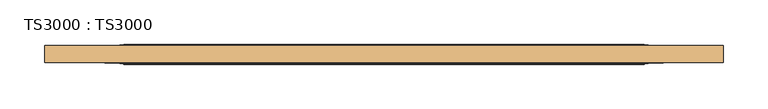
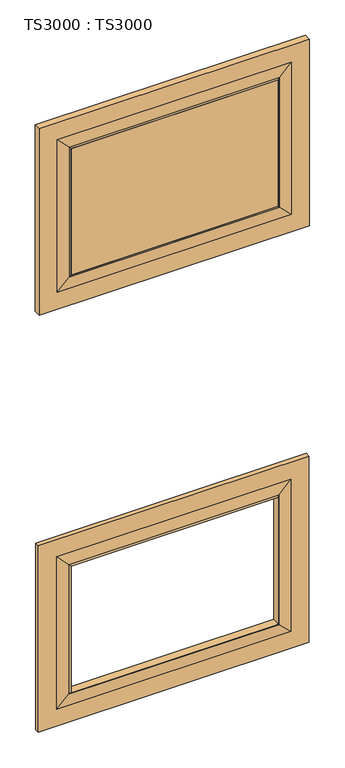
"""IFC4 building model written with IfcOpenShell, lengths in millimetres: door geometry, TS3000 : TS3000."""

import ifcopenshell
import ifcopenshell.guid

model = None  # the IFC model being written
_history = None  # IfcOwnerHistory: only IFC2X3 demands one
_inside = {}  # id of a spatial element -> (the spatial element, [elements in it])
_under = {}  # id of a project, library or spatial element -> (it, [spatial elements below it])
_declared = {}  # id of a project -> (the project, [libraries it declares])
_typed = {}  # id of a type object -> (the type object, [elements of that type])
_made_of = {}  # id of a material, layer set ... -> (it, [elements and type objects made of it])


def new_model(schema):
    """Start an empty IFC model of exactly this schema.

    Asked for "IFC4X3", IfcOpenShell would pick the latest addendum, in which some entities
    have other attributes; the version numbers below select the first issue.
    IFC2X3 requires an IfcOwnerHistory on every rooted entity: one is made here for all.
    """
    global model, _history
    if schema == "IFC4X3":
        model = ifcopenshell.file(schema_version=(4, 3, 0, 0))
    else:
        model = ifcopenshell.file(schema=schema)
    _inside.clear()
    _under.clear()
    _declared.clear()
    _typed.clear()
    _made_of.clear()
    _history = None
    if model.schema == "IFC2X3":
        org = make("IfcOrganization", Name="unknown")
        user = make(
            "IfcPersonAndOrganization",
            ThePerson=make("IfcPerson", FamilyName="unknown"),
            TheOrganization=org,
        )
        app = make(
            "IfcApplication",
            ApplicationDeveloper=org,
            Version="unknown",
            ApplicationFullName="unknown",
            ApplicationIdentifier="unknown",
        )
        _history = make(
            "IfcOwnerHistory",
            OwningUser=user,
            OwningApplication=app,
            ChangeAction="ADDED",
            CreationDate=0,
        )
    return model


def make(cls, **values):
    """One entity of the class cls with the attributes given. An attribute that is None is left unset."""
    return model.create_entity(
        cls, **{name: value for name, value in values.items() if value is not None}
    )


def rooted(cls, **values):
    """An entity with a GlobalId (a new one), such as an element, a storey or a relation."""
    return make(cls, GlobalId=ifcopenshell.guid.new(), OwnerHistory=_history, **values)


def si_unit(unit_type, name, prefix=None):
    """IfcSIUnit, for example si_unit("LENGTHUNIT", "METRE", prefix="MILLI")."""
    return make("IfcSIUnit", UnitType=unit_type, Prefix=prefix, Name=name)


def assignment(units):
    """IfcUnitAssignment: the units of a project."""
    return None if units is None else make("IfcUnitAssignment", Units=units)


def point(xyz):
    """IfcCartesianPoint."""
    return None if xyz is None else make("IfcCartesianPoint", Coordinates=xyz)


def direction(xyz):
    """IfcDirection."""
    return None if xyz is None else make("IfcDirection", DirectionRatios=xyz)


def frame(location, z_axis=None, x_axis=None):
    """IfcAxis2Placement3D, a coordinate frame: its origin and axes. An axis left out is left unset."""
    return make(
        "IfcAxis2Placement3D",
        Location=point(location),
        Axis=direction(z_axis),
        RefDirection=direction(x_axis),
    )


def origin():
    """The frame at (0, 0, 0) with its axes left unset."""
    return frame((0.0, 0.0, 0.0))


def place(relative_to, where):
    """IfcLocalPlacement: puts the frame where relative to a parent placement (None: the world)."""
    return make(
        "IfcLocalPlacement", PlacementRelTo=relative_to, RelativePlacement=where
    )


def context(
    kind, dimensions, precision=None, world=None, true_north=None, identifier=None
):
    """IfcGeometricRepresentationContext, for example the 3D "Model" context."""
    return make(
        "IfcGeometricRepresentationContext",
        ContextIdentifier=identifier,
        ContextType=kind,
        CoordinateSpaceDimension=dimensions,
        Precision=precision,
        WorldCoordinateSystem=world,
        TrueNorth=true_north,
    )


def project(units=None, contexts=None):
    """IfcProject with its units and contexts."""
    return rooted(
        "IfcProject",
        Name="project",
        RepresentationContexts=contexts,
        UnitsInContext=assignment(units),
    )


def spatial(cls, under=None, at=None, **own):
    """A site, building, storey or space (cls), placed at a placement, below another one or the project."""
    s = rooted(cls, ObjectPlacement=at, **own)
    if under is not None:
        _under.setdefault(under.id(), (under, []))[1].append(s)
    return s


def polyline(points):
    """IfcPolyline through the points."""
    return make("IfcPolyline", Points=[point(p) for p in points])


def ellipse_curve(where, semi_axis1, semi_axis2):
    """IfcEllipse in the frame where."""
    return make(
        "IfcEllipse", Position=where, SemiAxis1=semi_axis1, SemiAxis2=semi_axis2
    )


def outline(outer, holes=None, kind="AREA"):
    """IfcArbitraryClosedProfileDef: a profile drawn as a closed curve; with holes, ...WithVoids."""
    if holes is None:
        return make("IfcArbitraryClosedProfileDef", ProfileType=kind, OuterCurve=outer)
    return make(
        "IfcArbitraryProfileDefWithVoids",
        ProfileType=kind,
        OuterCurve=outer,
        InnerCurves=holes,
    )


def extrude(swept, where, along, depth):
    """IfcExtrudedAreaSolid: the profile swept, set in the frame where, extruded along a direction by depth."""
    return make(
        "IfcExtrudedAreaSolid",
        SweptArea=swept,
        Position=where,
        ExtrudedDirection=direction(along),
        Depth=depth,
    )


def shape(context_of_items, identifier, shape_type, items):
    """IfcShapeRepresentation: the items that make up one representation, for example the "Body"."""
    return make(
        "IfcShapeRepresentation",
        ContextOfItems=context_of_items,
        RepresentationIdentifier=identifier,
        RepresentationType=shape_type,
        Items=items,
    )


def source(mapping_origin, context_of_items, identifier, shape_type, items):
    """IfcRepresentationMap: a shape defined once, which mapped items show again and again."""
    return make(
        "IfcRepresentationMap",
        MappingOrigin=mapping_origin,
        MappedRepresentation=shape(context_of_items, identifier, shape_type, items),
    )


def transform(
    local_origin,
    x_axis=None,
    y_axis=None,
    z_axis=None,
    scale=None,
    scale2=None,
    scale3=None,
    uniform=True,
):
    """IfcCartesianTransformationOperator3D, or its non-uniform kind. x_axis, y_axis, z_axis: its Axis1, 2, 3."""
    if uniform:
        return make(
            "IfcCartesianTransformationOperator3D",
            Axis1=direction(x_axis),
            Axis2=direction(y_axis),
            LocalOrigin=point(local_origin),
            Scale=scale,
            Axis3=direction(z_axis),
        )
    return make(
        "IfcCartesianTransformationOperator3DnonUniform",
        Axis1=direction(x_axis),
        Axis2=direction(y_axis),
        LocalOrigin=point(local_origin),
        Scale=scale,
        Axis3=direction(z_axis),
        Scale2=scale2,
        Scale3=scale3,
    )


def mapped(mapping_source, mapping_target):
    """IfcMappedItem: shows the shape of a source again, moved by a transform."""
    return make(
        "IfcMappedItem", MappingSource=mapping_source, MappingTarget=mapping_target
    )


def made_of(thing, what):
    """Note that an element or type object is made of a material, layer set ...; save() writes the relation."""
    if what is not None:
        _made_of.setdefault(what.id(), (what, []))[1].append(thing)
    return thing


def element(
    cls,
    number,
    at=None,
    inside=None,
    cuts=None,
    type_object=None,
    material=None,
    context=None,
    identifier="Body",
    shape_type=None,
    held_by="IfcProductDefinitionShape",
    body=None,
    shapes=None,
    **own,
):
    """One element of the class cls, such as IfcWall. Its Tag is "e" and its number.

    at: its placement. inside: the storey or other place that contains it. cuts: it is an
    opening in that element (IfcRelVoidsElement). A single representation is given by context,
    identifier, shape_type and body (its items); several are given by shapes. held_by: the class
    of the entity that holds the representations. save() writes the other relations.
    """
    e = rooted(cls, Tag="e%d" % number, ObjectPlacement=at, **own)
    if body is not None:
        shapes = [shape(context, identifier, shape_type, body)]
    if shapes is not None:
        e.Representation = make(held_by, Representations=shapes)
    if inside is not None:
        _inside.setdefault(inside.id(), (inside, []))[1].append(e)
    if cuts is not None:
        rooted(
            "IfcRelVoidsElement", RelatingBuildingElement=cuts, RelatedOpeningElement=e
        )
    if type_object is not None:
        _typed.setdefault(type_object.id(), (type_object, []))[1].append(e)
    return made_of(e, material)


def aggregate(whole, parts):
    """IfcRelAggregates: a whole, such as a stair, and the parts it consists of."""
    return rooted("IfcRelAggregates", RelatingObject=whole, RelatedObjects=parts)


def save(model, path):
    """Write the relations noted so far, then the file.

    IfcRelAggregates (storeys below a building ...), IfcRelContainedInSpatialStructure (elements
    in a storey), IfcRelDefinesByType, IfcRelAssociatesMaterial and IfcRelDeclares: one each for
    every whole, place, type object, material and project.
    """
    for whole, parts in _under.values():
        aggregate(whole, parts)
    for where, things in _inside.values():
        rooted(
            "IfcRelContainedInSpatialStructure",
            RelatedElements=things,
            RelatingStructure=where,
        )
    for kind, things in _typed.values():
        rooted("IfcRelDefinesByType", RelatedObjects=things, RelatingType=kind)
    for what, things in _made_of.values():
        rooted("IfcRelAssociatesMaterial", RelatedObjects=things, RelatingMaterial=what)
    for by, libraries in _declared.values():
        rooted("IfcRelDeclares", RelatingContext=by, RelatedDefinitions=libraries)
    model.write(path)


def plane_surface(at):
    """IfcPlane: the flat surface through the origin of the frame at, square to its z axis."""
    return make("IfcPlane", Position=at)


def revolved_surface(curve, axis_point, axis_direction):
    """IfcSurfaceOfRevolution: the curve turned about the line through axis_point along axis_direction."""
    return make(
        "IfcSurfaceOfRevolution",
        SweptCurve=make("IfcArbitraryOpenProfileDef", ProfileType="CURVE", Curve=curve),
        AxisPosition=make("IfcAxis1Placement", Location=point(axis_point), Axis=direction(axis_direction)),
    )


def advanced_brep(points, edges, surfaces, faces):
    """IfcAdvancedBrep: a solid bounded by faces that lie on surfaces and meet in shared edges.

    An edge is (start, end): straight between two places in points (the first is 0);
    or (start, end, curve); or (start, end, curve, False) where it runs against its curve.
    A face is (place in surfaces, loops), or (place, loops, False) where it looks against
    its surface's normal. A loop lists edges by number (the first is 1), with a minus sign
    where the edge is run from its end to its start. The first loop is the outer one.
    """
    corners = [point(p) for p in points]
    vertices = [make("IfcVertexPoint", VertexGeometry=c) for c in corners]
    made = []
    for start, end, *more in edges:
        made.append(
            make(
                "IfcEdgeCurve",
                EdgeStart=vertices[start],
                EdgeEnd=vertices[end],
                EdgeGeometry=more[0] if more else make("IfcPolyline", Points=[corners[start], corners[end]]),
                SameSense=more[1] if len(more) > 1 else True,
            )
        )
    hull = []
    for where, loops, *sense in faces:
        bounds = []
        for j, loop in enumerate(loops):
            ring = [make("IfcOrientedEdge", EdgeElement=made[abs(k) - 1], Orientation=k > 0) for k in loop]
            bounds.append(
                make(
                    "IfcFaceOuterBound" if j == 0 else "IfcFaceBound",
                    Bound=make("IfcEdgeLoop", EdgeList=ring),
                    Orientation=True,
                )
            )
        hull.append(make("IfcAdvancedFace", Bounds=bounds, FaceSurface=surfaces[where], SameSense=sense[0] if sense else True))
    return make("IfcAdvancedBrep", Outer=make("IfcClosedShell", CfsFaces=hull))


def ts3000_ts3000_fbc00aaa(model_context):
    return source(origin(), model_context, "Body", "SolidModel", [
        advanced_brep(
        [(889.0, -15.875, 764.1166667), (889.0, -28.575, 764.1166667), (889.0, -28.575, 209.55), (889.0, -15.875, 209.55), (800.1, -33.3375, 675.2166667), (800.1, -11.1125, 675.2166667), (800.1, -11.1125, 298.45), (800.1, -33.3375, 298.45), (127.0, -28.575, 209.55), (127.0, -15.875, 209.55), (215.9, -11.1125, 298.45), (215.9, -33.3375, 298.45), (127.0, -28.575, 764.1166667), (127.0, -15.875, 764.1166667), (215.9, -11.1125, 675.2166667), (215.9, -33.3375, 675.2166667), (838.2, -28.575, 260.35), (177.8, -28.575, 260.35), (177.8, -28.575, 713.3166667), (838.2, -28.575, 713.3166667), (838.2, -15.875, 713.3166667), (177.8, -15.875, 713.3166667), (177.8, -15.875, 260.35), (838.2, -15.875, 260.35), (804.8625, -30.95625, 679.9791667), (804.8625, -30.95625, 293.6875), (211.1375, -30.95625, 293.6875), (211.1375, -30.95625, 679.9791667), (804.8625, -13.49375, 679.9791667), (804.8625, -13.49375, 293.6875), (211.1375, -13.49375, 293.6875), (211.1375, -13.49375, 679.9791667)],
        [
            (0, 1),
            (1, 2),
            (2, 3),
            (3, 0),
            (4, 5),
            (5, 6),
            (6, 7),
            (7, 4),
            (2, 8),
            (8, 9),
            (9, 3),
            (6, 10),
            (10, 11),
            (11, 7),
            (8, 12),
            (12, 13),
            (13, 9),
            (10, 14),
            (14, 15),
            (15, 11),
            (1, 12),
            (16, 17),
            (17, 18),
            (18, 19),
            (19, 16),
            (0, 13),
            (20, 21),
            (21, 22),
            (22, 23),
            (23, 20),
            (14, 5),
            (4, 15),
            (19, 24),
            (24, 25),
            (25, 16),
            (25, 26),
            (26, 17),
            (26, 27),
            (27, 18),
            (27, 24),
            (28, 20),
            (23, 29),
            (29, 28),
            (5, 28, ellipse_curve(frame((805.3585938, -6.5484375, 680.4752604), z_axis=(-0.7071067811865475, 0.0, 0.7071067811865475), x_axis=(-0.7071067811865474, 0.0, -0.7071067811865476)), 9.8471798, 6.9630076)),
            (29, 6, ellipse_curve(frame((805.3585938, -6.5484375, 293.1914062), z_axis=(-0.7071067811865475, 0.0, -0.7071067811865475), x_axis=(0.7071067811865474, 0.0, -0.7071067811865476)), 9.8471798, 6.9630076)),
            (24, 4, ellipse_curve(frame((805.3585938, -37.9015625, 680.4752604), z_axis=(-0.7071067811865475, 0.0, 0.7071067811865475), x_axis=(-0.7071067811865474, 0.0, -0.7071067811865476)), 9.8471798, 6.9630076)),
            (7, 25, ellipse_curve(frame((805.3585938, -37.9015625, 293.1914062), z_axis=(-0.7071067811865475, 0.0, -0.7071067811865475), x_axis=(0.7071067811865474, 0.0, -0.7071067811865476)), 9.8471798, 6.9630076)),
            (22, 30),
            (30, 29),
            (30, 10, ellipse_curve(frame((210.6414063, -6.5484375, 293.1914062), z_axis=(-0.7071067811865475, 0.0, 0.7071067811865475), x_axis=(-0.7071067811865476, 0.0, -0.7071067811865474)), 9.8471798, 6.9630076)),
            (11, 26, ellipse_curve(frame((210.6414063, -37.9015625, 293.1914062), z_axis=(-0.7071067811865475, 0.0, 0.7071067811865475), x_axis=(-0.7071067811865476, 0.0, -0.7071067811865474)), 9.8471798, 6.9630076)),
            (21, 31),
            (31, 30),
            (31, 14, ellipse_curve(frame((210.6414063, -6.5484375, 680.4752604), z_axis=(0.7071067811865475, 0.0, 0.7071067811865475), x_axis=(-0.7071067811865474, 0.0, 0.7071067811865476)), 9.8471798, 6.9630076)),
            (15, 27, ellipse_curve(frame((210.6414063, -37.9015625, 680.4752604), z_axis=(0.7071067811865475, 0.0, 0.7071067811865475), x_axis=(-0.7071067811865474, 0.0, 0.7071067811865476)), 9.8471798, 6.9630076)),
            (28, 31),
        ],
        [
            plane_surface(frame((889.0, -28.575, 764.1166667), z_axis=(1.0, 0.0, 0.0), x_axis=(0.0, 0.0, -1.0))),
            plane_surface(frame((800.1, -11.1125, 675.2166667), z_axis=(-1.0, 0.0, 0.0), x_axis=(0.0, 0.0, -1.0))),
            plane_surface(frame((889.0, -28.575, 209.55), z_axis=(0.0, 0.0, -1.0), x_axis=(-1.0, 0.0, 0.0))),
            plane_surface(frame((800.1, -11.1125, 298.45), z_axis=(0.0, 0.0, 1.0), x_axis=(-1.0, 0.0, 0.0))),
            plane_surface(frame((127.0, -28.575, 209.55), z_axis=(-1.0, 0.0, 0.0), x_axis=(0.0, 0.0, 1.0))),
            plane_surface(frame((215.9, -11.1125, 298.45), z_axis=(1.0, 0.0, 0.0), x_axis=(0.0, 0.0, 1.0))),
            plane_surface(frame((177.8, -28.575, 713.3166667), z_axis=(0.0, -1.0, 0.0), x_axis=(1.0, 0.0, 0.0))),
            plane_surface(frame((127.0, -28.575, 764.1166667), z_axis=(0.0, 0.0, 1.0), x_axis=(1.0, 0.0, 0.0))),
            plane_surface(frame((127.0, -15.875, 764.1166667), z_axis=(0.0, 1.0, 0.0), x_axis=(1.0, 0.0, 0.0))),
            plane_surface(frame((215.9, -11.1125, 675.2166667), z_axis=(0.0, 0.0, -1.0), x_axis=(1.0, 0.0, 0.0))),
            plane_surface(frame((804.8625, -30.95625, 679.9791667), z_axis=(0.07124704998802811, -0.9974586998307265, 0.0), x_axis=(0.0, 0.0, -1.0))),
            plane_surface(frame((804.8625, -30.95625, 293.6875), z_axis=(0.0, -0.9974586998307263, -0.07124704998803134), x_axis=(-1.0, 0.0, 0.0))),
            plane_surface(frame((211.1375, -30.95625, 293.6875), z_axis=(-0.07124704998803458, -0.9974586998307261, 0.0), x_axis=(0.0, 0.0, 1.0))),
            plane_surface(frame((211.1375, -30.95625, 679.9791667), z_axis=(0.0, -0.9974586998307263, 0.07124704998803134), x_axis=(1.0, 0.0, 0.0))),
            plane_surface(frame((838.2, -15.875, 713.3166667), z_axis=(0.07124704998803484, 0.9974586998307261, 0.0), x_axis=(0.0, 0.0, -1.0))),
            revolved_surface(polyline([(798.3955862, -6.5484375, 286.2283985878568), (798.3955862, -6.5484375, 687.4382680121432)]), (805.3585938, -6.5484375, 675.2166667), (0.0, 0.0, -1.0)),
            revolved_surface(polyline([(798.3955862, -37.9015625, 286.2283985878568), (798.3955862, -37.9015625, 687.4382680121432)]), (805.3585938, -37.9015625, 675.2166667), (0.0, 0.0, -1.0)),
            plane_surface(frame((838.2, -15.875, 260.35), z_axis=(0.0, 0.9974586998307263, -0.07124704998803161), x_axis=(-1.0, 0.0, 0.0))),
            revolved_surface(polyline([(203.67839868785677, -6.5484375, 300.15441380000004), (812.3216014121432, -6.5484375, 300.15441380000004)]), (800.1, -6.5484375, 293.1914062), (-1.0, 0.0, 0.0)),
            revolved_surface(polyline([(203.67839868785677, -37.9015625, 300.15441380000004), (812.3216014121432, -37.9015625, 300.15441380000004)]), (800.1, -37.9015625, 293.1914062), (-1.0, 0.0, 0.0)),
            plane_surface(frame((177.8, -15.875, 260.35), z_axis=(-0.07124704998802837, 0.9974586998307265, 0.0), x_axis=(0.0, 0.0, 1.0))),
            revolved_surface(polyline([(217.6044139, -6.5484375, 687.4382680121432), (217.6044139, -6.5484375, 286.2283985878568)]), (210.6414063, -6.5484375, 298.45), (0.0, 0.0, 1.0)),
            revolved_surface(polyline([(217.6044139, -37.9015625, 687.4382680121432), (217.6044139, -37.9015625, 286.2283985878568)]), (210.6414063, -37.9015625, 298.45), (0.0, 0.0, 1.0)),
            plane_surface(frame((177.8, -15.875, 713.3166667), z_axis=(0.0, 0.9974586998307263, 0.07124704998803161), x_axis=(1.0, 0.0, 0.0))),
            revolved_surface(polyline([(812.3216014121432, -6.5484375, 673.5122528), (203.6783986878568, -6.5484375, 673.5122528)]), (215.9, -6.5484375, 680.4752604), (1.0, 0.0, 0.0)),
            revolved_surface(polyline([(812.3216014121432, -37.9015625, 673.5122528), (203.6783986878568, -37.9015625, 673.5122528)]), (215.9, -37.9015625, 680.4752604), (1.0, 0.0, 0.0)),
        ],
        [
            (0, [[1, 2, 3, 4]]),
            (1, [[5, 6, 7, 8]]),
            (2, [[-3, 9, 10, 11]]),
            (3, [[-7, 12, 13, 14]]),
            (4, [[-10, 15, 16, 17]]),
            (5, [[-13, 18, 19, 20]]),
            (6, [[21, -15, -9, -2], [22, 23, 24, 25]]),
            (7, [[-16, -21, -1, 26]]),
            (8, [[-11, -17, -26, -4], [27, 28, 29, 30]]),
            (9, [[-19, 31, -5, 32]]),
            (10, [[33, 34, 35, -25]]),
            (11, [[-35, 36, 37, -22]]),
            (12, [[-37, 38, 39, -23]]),
            (13, [[-39, 40, -33, -24]]),
            (14, [[41, -30, 42, 43]]),
            (15, [[44, -43, 45, -6]]),
            (16, [[46, -8, 47, -34]]),
            (17, [[-42, -29, 48, 49]]),
            (18, [[-45, -49, 50, -12]]),
            (19, [[-47, -14, 51, -36]]),
            (20, [[-48, -28, 52, 53]]),
            (21, [[-50, -53, 54, -18]]),
            (22, [[-51, -20, 55, -38]]),
            (23, [[-52, -27, -41, 56]]),
            (24, [[-54, -56, -44, -31]]),
            (25, [[-55, -32, -46, -40]]),
        ],
    ),
        advanced_brep(
        [(889.0, -12.7, 2006.6), (889.0, -31.75, 2006.6), (889.0, -31.75, 1452.0333333), (889.0, -12.7, 1452.0333333), (800.1, -33.3375, 1917.7), (800.1, -11.1125, 1917.7), (800.1, -11.1125, 1540.9333333), (800.1, -33.3375, 1540.9333333), (127.0, -31.75, 1452.0333333), (127.0, -12.7, 1452.0333333), (215.9, -11.1125, 1540.9333333), (215.9, -33.3375, 1540.9333333), (127.0, -31.75, 2006.6), (127.0, -12.7, 2006.6), (215.9, -11.1125, 1917.7), (215.9, -33.3375, 1917.7), (838.2, -31.75, 1502.8333333), (177.8, -31.75, 1502.8333333), (177.8, -31.75, 1955.8), (838.2, -31.75, 1955.8), (838.2, -12.7, 1955.8), (177.8, -12.7, 1955.8), (177.8, -12.7, 1502.8333333), (838.2, -12.7, 1502.8333333), (804.8625, -32.54375, 1922.4625), (804.8625, -32.54375, 1536.1708333), (211.1375, -32.54375, 1536.1708333), (211.1375, -32.54375, 1922.4625), (804.8625, -11.90625, 1922.4625), (804.8625, -11.90625, 1536.1708333), (211.1375, -11.90625, 1536.1708333), (211.1375, -11.90625, 1922.4625)],
        [
            (0, 1),
            (1, 2),
            (2, 3),
            (3, 0),
            (4, 5),
            (5, 6),
            (6, 7),
            (7, 4),
            (2, 8),
            (8, 9),
            (9, 3),
            (6, 10),
            (10, 11),
            (11, 7),
            (8, 12),
            (12, 13),
            (13, 9),
            (10, 14),
            (14, 15),
            (15, 11),
            (1, 12),
            (16, 17),
            (17, 18),
            (18, 19),
            (19, 16),
            (0, 13),
            (20, 21),
            (21, 22),
            (22, 23),
            (23, 20),
            (14, 5),
            (4, 15),
            (19, 24),
            (24, 25),
            (25, 16),
            (25, 26),
            (26, 17),
            (26, 27),
            (27, 18),
            (27, 24),
            (28, 20),
            (23, 29),
            (29, 28),
            (5, 28, ellipse_curve(frame((805.3585938, 5.7546875, 1922.9585938), z_axis=(-0.7071067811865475, 0.0, 0.7071067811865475), x_axis=(-0.7071067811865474, 0.0, -0.7071067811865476)), 24.9861891, 17.6679037)),
            (29, 6, ellipse_curve(frame((805.3585938, 5.7546875, 1535.6747396), z_axis=(-0.7071067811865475, 0.0, -0.7071067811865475), x_axis=(0.7071067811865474, 0.0, -0.7071067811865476)), 24.9861891, 17.6679037)),
            (24, 4, ellipse_curve(frame((805.3585938, -50.2046875, 1922.9585938), z_axis=(-0.7071067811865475, 0.0, 0.7071067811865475), x_axis=(-0.7071067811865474, 0.0, -0.7071067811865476)), 24.9861891, 17.6679037)),
            (7, 25, ellipse_curve(frame((805.3585938, -50.2046875, 1535.6747396), z_axis=(-0.7071067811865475, 0.0, -0.7071067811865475), x_axis=(0.7071067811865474, 0.0, -0.7071067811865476)), 24.9861891, 17.6679037)),
            (22, 30),
            (30, 29),
            (30, 10, ellipse_curve(frame((210.6414063, 5.7546875, 1535.6747396), z_axis=(-0.7071067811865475, 0.0, 0.7071067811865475), x_axis=(-0.7071067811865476, 0.0, -0.7071067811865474)), 24.9861891, 17.6679037)),
            (11, 26, ellipse_curve(frame((210.6414063, -50.2046875, 1535.6747396), z_axis=(-0.7071067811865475, 0.0, 0.7071067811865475), x_axis=(-0.7071067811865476, 0.0, -0.7071067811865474)), 24.9861891, 17.6679037)),
            (21, 31),
            (31, 30),
            (31, 14, ellipse_curve(frame((210.6414063, 5.7546875, 1922.9585938), z_axis=(0.7071067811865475, 0.0, 0.7071067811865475), x_axis=(-0.7071067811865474, 0.0, 0.7071067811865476)), 24.9861891, 17.6679037)),
            (15, 27, ellipse_curve(frame((210.6414063, -50.2046875, 1922.9585938), z_axis=(0.7071067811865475, 0.0, 0.7071067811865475), x_axis=(-0.7071067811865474, 0.0, 0.7071067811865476)), 24.9861891, 17.6679037)),
            (28, 31),
        ],
        [
            plane_surface(frame((889.0, -31.75, 2006.6), z_axis=(1.0, 0.0, 0.0), x_axis=(0.0, 0.0, -1.0))),
            plane_surface(frame((800.1, -11.1125, 1917.7), z_axis=(-1.0, 0.0, 0.0), x_axis=(0.0, 0.0, -1.0))),
            plane_surface(frame((889.0, -31.75, 1452.0333333), z_axis=(0.0, 0.0, -1.0), x_axis=(-1.0, 0.0, 0.0))),
            plane_surface(frame((800.1, -11.1125, 1540.9333333), z_axis=(0.0, 0.0, 1.0), x_axis=(-1.0, 0.0, 0.0))),
            plane_surface(frame((127.0, -31.75, 1452.0333333), z_axis=(-1.0, 0.0, 0.0), x_axis=(0.0, 0.0, 1.0))),
            plane_surface(frame((215.9, -11.1125, 1540.9333333), z_axis=(1.0, 0.0, 0.0), x_axis=(0.0, 0.0, 1.0))),
            plane_surface(frame((177.8, -31.75, 1955.8), z_axis=(0.0, -1.0, 0.0), x_axis=(1.0, 0.0, 0.0))),
            plane_surface(frame((127.0, -31.75, 2006.6), z_axis=(0.0, 0.0, 1.0), x_axis=(1.0, 0.0, 0.0))),
            plane_surface(frame((127.0, -12.7, 2006.6), z_axis=(0.0, 1.0, 0.0), x_axis=(1.0, 0.0, 0.0))),
            plane_surface(frame((215.9, -11.1125, 1917.7), z_axis=(0.0, 0.0, -1.0), x_axis=(1.0, 0.0, 0.0))),
            plane_surface(frame((804.8625, -32.54375, 1922.4625), z_axis=(0.02380277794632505, -0.9997166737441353, 0.0), x_axis=(0.0, 0.0, -1.0))),
            plane_surface(frame((804.8625, -32.54375, 1536.1708333), z_axis=(0.0, -0.9997166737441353, -0.02380277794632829), x_axis=(-1.0, 0.0, 0.0))),
            plane_surface(frame((211.1375, -32.54375, 1536.1708333), z_axis=(-0.023802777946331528, -0.9997166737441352, 0.0), x_axis=(0.0, 0.0, 1.0))),
            plane_surface(frame((211.1375, -32.54375, 1922.4625), z_axis=(0.0, -0.9997166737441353, 0.02380277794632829), x_axis=(1.0, 0.0, 0.0))),
            plane_surface(frame((838.2, -12.7, 1955.8), z_axis=(0.023802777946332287, 0.9997166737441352, 0.0), x_axis=(0.0, 0.0, -1.0))),
            revolved_surface(polyline([(787.6906901, 5.7546875, 1518.0068358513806), (787.6906901, 5.7546875, 1940.6264975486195)]), (805.3585938, 5.7546875, 1917.7), (0.0, 0.0, -1.0)),
            revolved_surface(polyline([(787.6906901, -50.2046875, 1518.0068358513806), (787.6906901, -50.2046875, 1940.6264975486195)]), (805.3585938, -50.2046875, 1917.7), (0.0, 0.0, -1.0)),
            plane_surface(frame((838.2, -12.7, 1502.8333333), z_axis=(0.0, 0.9997166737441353, -0.02380277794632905), x_axis=(-1.0, 0.0, 0.0))),
            revolved_surface(polyline([(192.97350255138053, 5.7546875, 1553.3426433), (823.0264975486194, 5.7546875, 1553.3426433)]), (800.1, 5.7546875, 1535.6747396), (-1.0, 0.0, 0.0)),
            revolved_surface(polyline([(192.97350255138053, -50.2046875, 1553.3426433), (823.0264975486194, -50.2046875, 1553.3426433)]), (800.1, -50.2046875, 1535.6747396), (-1.0, 0.0, 0.0)),
            plane_surface(frame((177.8, -12.7, 1502.8333333), z_axis=(-0.023802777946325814, 0.9997166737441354, 0.0), x_axis=(0.0, 0.0, 1.0))),
            revolved_surface(polyline([(228.30931, 5.7546875, 1940.6264975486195), (228.30931, 5.7546875, 1518.0068358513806)]), (210.6414063, 5.7546875, 1540.9333333), (0.0, 0.0, 1.0)),
            revolved_surface(polyline([(228.30931, -50.2046875, 1940.6264975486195), (228.30931, -50.2046875, 1518.0068358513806)]), (210.6414063, -50.2046875, 1540.9333333), (0.0, 0.0, 1.0)),
            plane_surface(frame((177.8, -12.7, 1955.8), z_axis=(0.0, 0.9997166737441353, 0.02380277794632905), x_axis=(1.0, 0.0, 0.0))),
            revolved_surface(polyline([(823.0264975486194, 5.7546875, 1905.2906901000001), (192.9735025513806, 5.7546875, 1905.2906901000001)]), (215.9, 5.7546875, 1922.9585938), (1.0, 0.0, 0.0)),
            revolved_surface(polyline([(823.0264975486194, -50.2046875, 1905.2906901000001), (192.9735025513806, -50.2046875, 1905.2906901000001)]), (215.9, -50.2046875, 1922.9585938), (1.0, 0.0, 0.0)),
        ],
        [
            (0, [[1, 2, 3, 4]]),
            (1, [[5, 6, 7, 8]]),
            (2, [[-3, 9, 10, 11]]),
            (3, [[-7, 12, 13, 14]]),
            (4, [[-10, 15, 16, 17]]),
            (5, [[-13, 18, 19, 20]]),
            (6, [[21, -15, -9, -2], [22, 23, 24, 25]]),
            (7, [[-16, -21, -1, 26]]),
            (8, [[-11, -17, -26, -4], [27, 28, 29, 30]]),
            (9, [[-19, 31, -5, 32]]),
            (10, [[33, 34, 35, -25]]),
            (11, [[-35, 36, 37, -22]]),
            (12, [[-37, 38, 39, -23]]),
            (13, [[-39, 40, -33, -24]]),
            (14, [[41, -30, 42, 43]]),
            (15, [[44, -43, 45, -6]]),
            (16, [[46, -8, 47, -34]]),
            (17, [[-42, -29, 48, 49]]),
            (18, [[-45, -49, 50, -12]]),
            (19, [[-47, -14, 51, -36]]),
            (20, [[-48, -28, 52, 53]]),
            (21, [[-50, -53, 54, -18]]),
            (22, [[-51, -20, 55, -38]]),
            (23, [[-52, -27, -41, 56]]),
            (24, [[-54, -56, -44, -31]]),
            (25, [[-55, -32, -46, -40]]),
        ],
    ),
        extrude(outline(polyline([(215.9, -11.1125), (800.1, -11.1125), (800.1, -33.3375), (215.9, -33.3375), (215.9, -11.1125)])), frame((0.0, 0.0, 1540.9333333), z_axis=(0.0, 0.0, 1.0), x_axis=(1.0, 0.0, 0.0)), (0.0, 0.0, 1.0), 376.7666667),
    ])


if __name__ == "__main__":
    model = new_model("IFC4")
    model_context = context("Model", 3, world=origin())
    ifc_project = project(units=[si_unit("LENGTHUNIT", "METRE", prefix="MILLI")], contexts=[model_context])
    site = spatial("IfcSite", under=ifc_project)
    building = spatial("IfcBuilding", under=site)
    placement = place(None, origin())
    ts3000_ts3000_shape = ts3000_ts3000_fbc00aaa(model_context)
    element("IfcDoor", 1, ObjectType="TS3000 : TS3000", at=placement, inside=building, context=model_context, shape_type="MappedRepresentation", body=[
        mapped(ts3000_ts3000_shape, transform((0.0, 0.0, 0.0), x_axis=(1.0, 0.0, 0.0), y_axis=(0.0, 1.0, 0.0), z_axis=(0.0, 0.0, 1.0))),
    ])
    save(model, "model.ifc")
